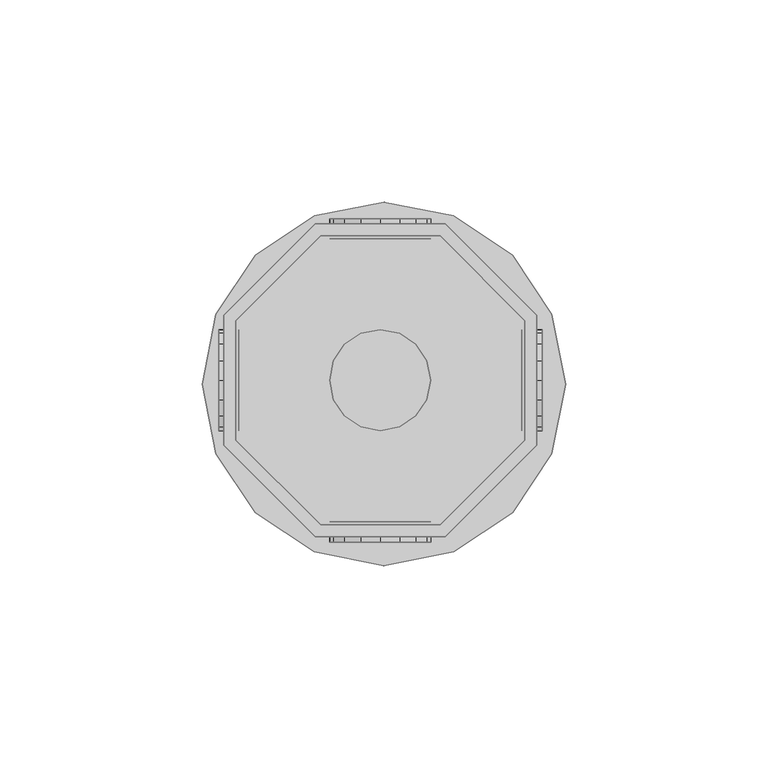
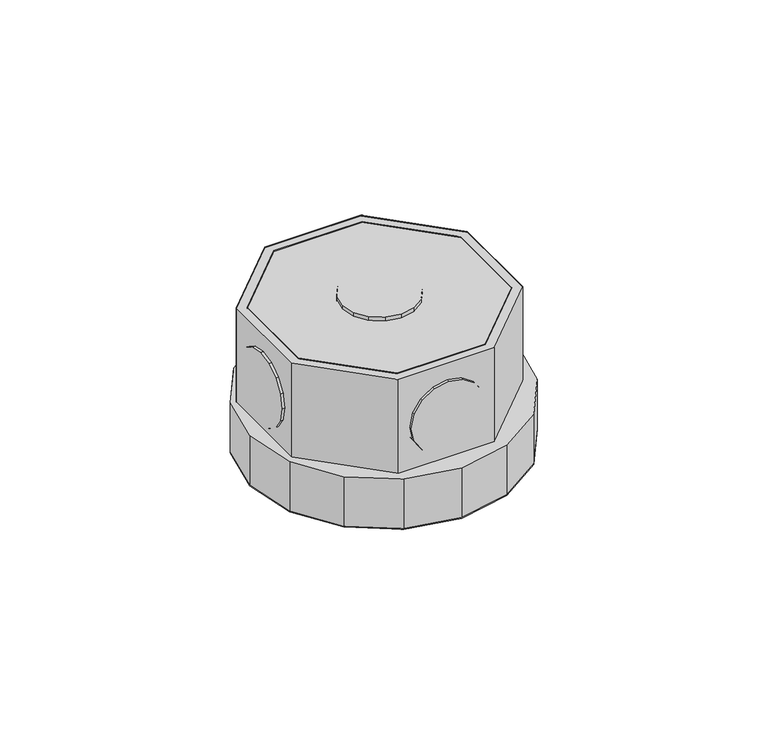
"""IFC4 building model written with IfcOpenShell, lengths in millimetres: light fixture geometry,  212706 :  212706."""

import ifcopenshell
import ifcopenshell.guid

model = None  # the IFC model being written
_history = None  # IfcOwnerHistory: only IFC2X3 demands one
_inside = {}  # id of a spatial element -> (the spatial element, [elements in it])
_under = {}  # id of a project, library or spatial element -> (it, [spatial elements below it])
_declared = {}  # id of a project -> (the project, [libraries it declares])
_typed = {}  # id of a type object -> (the type object, [elements of that type])
_made_of = {}  # id of a material, layer set ... -> (it, [elements and type objects made of it])


def new_model(schema):
    """Start an empty IFC model of exactly this schema.

    Asked for "IFC4X3", IfcOpenShell would pick the latest addendum, in which some entities
    have other attributes; the version numbers below select the first issue.
    IFC2X3 requires an IfcOwnerHistory on every rooted entity: one is made here for all.
    """
    global model, _history
    if schema == "IFC4X3":
        model = ifcopenshell.file(schema_version=(4, 3, 0, 0))
    else:
        model = ifcopenshell.file(schema=schema)
    _inside.clear()
    _under.clear()
    _declared.clear()
    _typed.clear()
    _made_of.clear()
    _history = None
    if model.schema == "IFC2X3":
        org = make("IfcOrganization", Name="unknown")
        user = make(
            "IfcPersonAndOrganization",
            ThePerson=make("IfcPerson", FamilyName="unknown"),
            TheOrganization=org,
        )
        app = make(
            "IfcApplication",
            ApplicationDeveloper=org,
            Version="unknown",
            ApplicationFullName="unknown",
            ApplicationIdentifier="unknown",
        )
        _history = make(
            "IfcOwnerHistory",
            OwningUser=user,
            OwningApplication=app,
            ChangeAction="ADDED",
            CreationDate=0,
        )
    return model


def make(cls, **values):
    """One entity of the class cls with the attributes given. An attribute that is None is left unset."""
    return model.create_entity(
        cls, **{name: value for name, value in values.items() if value is not None}
    )


def rooted(cls, **values):
    """An entity with a GlobalId (a new one), such as an element, a storey or a relation."""
    return make(cls, GlobalId=ifcopenshell.guid.new(), OwnerHistory=_history, **values)


def si_unit(unit_type, name, prefix=None):
    """IfcSIUnit, for example si_unit("LENGTHUNIT", "METRE", prefix="MILLI")."""
    return make("IfcSIUnit", UnitType=unit_type, Prefix=prefix, Name=name)


def assignment(units):
    """IfcUnitAssignment: the units of a project."""
    return None if units is None else make("IfcUnitAssignment", Units=units)


def point(xyz):
    """IfcCartesianPoint."""
    return None if xyz is None else make("IfcCartesianPoint", Coordinates=xyz)


def direction(xyz):
    """IfcDirection."""
    return None if xyz is None else make("IfcDirection", DirectionRatios=xyz)


def frame(location, z_axis=None, x_axis=None):
    """IfcAxis2Placement3D, a coordinate frame: its origin and axes. An axis left out is left unset."""
    return make(
        "IfcAxis2Placement3D",
        Location=point(location),
        Axis=direction(z_axis),
        RefDirection=direction(x_axis),
    )


def origin():
    """The frame at (0, 0, 0) with its axes left unset."""
    return frame((0.0, 0.0, 0.0))


def place(relative_to, where):
    """IfcLocalPlacement: puts the frame where relative to a parent placement (None: the world)."""
    return make(
        "IfcLocalPlacement", PlacementRelTo=relative_to, RelativePlacement=where
    )


def context(
    kind, dimensions, precision=None, world=None, true_north=None, identifier=None
):
    """IfcGeometricRepresentationContext, for example the 3D "Model" context."""
    return make(
        "IfcGeometricRepresentationContext",
        ContextIdentifier=identifier,
        ContextType=kind,
        CoordinateSpaceDimension=dimensions,
        Precision=precision,
        WorldCoordinateSystem=world,
        TrueNorth=true_north,
    )


def project(units=None, contexts=None):
    """IfcProject with its units and contexts."""
    return rooted(
        "IfcProject",
        Name="project",
        RepresentationContexts=contexts,
        UnitsInContext=assignment(units),
    )


def spatial(cls, under=None, at=None, **own):
    """A site, building, storey or space (cls), placed at a placement, below another one or the project."""
    s = rooted(cls, ObjectPlacement=at, **own)
    if under is not None:
        _under.setdefault(under.id(), (under, []))[1].append(s)
    return s


def point_list(points):
    """IfcCartesianPointList2D or 3D."""
    cls = (
        "IfcCartesianPointList2D" if len(points[0]) == 2 else "IfcCartesianPointList3D"
    )
    return make(cls, CoordList=points)


def triangles(points, corners, closed=None, point_numbers=None):
    """IfcTriangulatedFaceSet: each triangle names its three corners, points numbered from 1."""
    return make(
        "IfcTriangulatedFaceSet",
        Coordinates=point_list(points),
        Closed=closed,
        CoordIndex=corners,
        PnIndex=point_numbers,
    )


def shape(context_of_items, identifier, shape_type, items):
    """IfcShapeRepresentation: the items that make up one representation, for example the "Body"."""
    return make(
        "IfcShapeRepresentation",
        ContextOfItems=context_of_items,
        RepresentationIdentifier=identifier,
        RepresentationType=shape_type,
        Items=items,
    )


def source(mapping_origin, context_of_items, identifier, shape_type, items):
    """IfcRepresentationMap: a shape defined once, which mapped items show again and again."""
    return make(
        "IfcRepresentationMap",
        MappingOrigin=mapping_origin,
        MappedRepresentation=shape(context_of_items, identifier, shape_type, items),
    )


def transform(
    local_origin,
    x_axis=None,
    y_axis=None,
    z_axis=None,
    scale=None,
    scale2=None,
    scale3=None,
    uniform=True,
):
    """IfcCartesianTransformationOperator3D, or its non-uniform kind. x_axis, y_axis, z_axis: its Axis1, 2, 3."""
    if uniform:
        return make(
            "IfcCartesianTransformationOperator3D",
            Axis1=direction(x_axis),
            Axis2=direction(y_axis),
            LocalOrigin=point(local_origin),
            Scale=scale,
            Axis3=direction(z_axis),
        )
    return make(
        "IfcCartesianTransformationOperator3DnonUniform",
        Axis1=direction(x_axis),
        Axis2=direction(y_axis),
        LocalOrigin=point(local_origin),
        Scale=scale,
        Axis3=direction(z_axis),
        Scale2=scale2,
        Scale3=scale3,
    )


def mapped(mapping_source, mapping_target):
    """IfcMappedItem: shows the shape of a source again, moved by a transform."""
    return make(
        "IfcMappedItem", MappingSource=mapping_source, MappingTarget=mapping_target
    )


def made_of(thing, what):
    """Note that an element or type object is made of a material, layer set ...; save() writes the relation."""
    if what is not None:
        _made_of.setdefault(what.id(), (what, []))[1].append(thing)
    return thing


def element(
    cls,
    number,
    at=None,
    inside=None,
    cuts=None,
    type_object=None,
    material=None,
    context=None,
    identifier="Body",
    shape_type=None,
    held_by="IfcProductDefinitionShape",
    body=None,
    shapes=None,
    **own,
):
    """One element of the class cls, such as IfcWall. Its Tag is "e" and its number.

    at: its placement. inside: the storey or other place that contains it. cuts: it is an
    opening in that element (IfcRelVoidsElement). A single representation is given by context,
    identifier, shape_type and body (its items); several are given by shapes. held_by: the class
    of the entity that holds the representations. save() writes the other relations.
    """
    e = rooted(cls, Tag="e%d" % number, ObjectPlacement=at, **own)
    if body is not None:
        shapes = [shape(context, identifier, shape_type, body)]
    if shapes is not None:
        e.Representation = make(held_by, Representations=shapes)
    if inside is not None:
        _inside.setdefault(inside.id(), (inside, []))[1].append(e)
    if cuts is not None:
        rooted(
            "IfcRelVoidsElement", RelatingBuildingElement=cuts, RelatedOpeningElement=e
        )
    if type_object is not None:
        _typed.setdefault(type_object.id(), (type_object, []))[1].append(e)
    return made_of(e, material)


def aggregate(whole, parts):
    """IfcRelAggregates: a whole, such as a stair, and the parts it consists of."""
    return rooted("IfcRelAggregates", RelatingObject=whole, RelatedObjects=parts)


def save(model, path):
    """Write the relations noted so far, then the file.

    IfcRelAggregates (storeys below a building ...), IfcRelContainedInSpatialStructure (elements
    in a storey), IfcRelDefinesByType, IfcRelAssociatesMaterial and IfcRelDeclares: one each for
    every whole, place, type object, material and project.
    """
    for whole, parts in _under.values():
        aggregate(whole, parts)
    for where, things in _inside.values():
        rooted(
            "IfcRelContainedInSpatialStructure",
            RelatedElements=things,
            RelatingStructure=where,
        )
    for kind, things in _typed.values():
        rooted("IfcRelDefinesByType", RelatedObjects=things, RelatingType=kind)
    for what, things in _made_of.values():
        rooted("IfcRelAssociatesMaterial", RelatedObjects=things, RelatingMaterial=what)
    for by, libraries in _declared.values():
        rooted("IfcRelDeclares", RelatingContext=by, RelatedDefinitions=libraries)
    model.write(path)


def light_fixture_fd19b01a(model_context):
    return source(origin(), model_context, "Body", "Tessellation", [
        triangles([(27645.0009521, 9482.9200104, 2924.5999741), (27615.4004333, 9482.9200104, 2975.400071), (27615.4004333, 9482.9200104, 2924.5999741), (27645.0009521, 9482.9200104, 2975.400071), (27646.2008789, 9408.4199066, 2924.5999741), (27614.1005127, 9408.4199066, 2975.400071), (27614.1005127, 9408.4199066, 2924.5999741), (27646.2008789, 9408.4199066, 2975.400071), (27594.3993896, 9461.9201294, 2975.400071), (27594.3993896, 9461.9201294, 2924.5999741), (27668.8994934, 9431.1202652, 2924.5999741), (27668.8994934, 9431.1202652, 2975.400071), (27594.3993896, 9432.320192, 2975.400071), (27594.3993896, 9432.320192, 2924.5999741), (27668.8994934, 9463.22005, 2924.5999741), (27668.8994934, 9463.22005, 2975.400071), (27615.4004333, 9411.4197235, 2975.400071), (27615.4004333, 9411.4197235, 2924.5999741), (27646.2008789, 9485.9198273, 2924.5999741), (27646.2008789, 9485.9198273, 2975.400071), (27645.0009521, 9411.4197235, 2924.5999741), (27645.0009521, 9411.4197235, 2975.400071), (27614.1005127, 9485.9198273, 2975.400071), (27614.1005127, 9485.9198273, 2924.5999741), (27665.8996765, 9432.320192, 2924.5999741), (27665.8996765, 9432.320192, 2975.400071), (27591.3995728, 9463.22005, 2975.400071), (27591.3995728, 9463.22005, 2924.5999741), (27591.3995728, 9431.1202652, 2975.400071), (27665.8996765, 9461.9201294, 2975.400071), (27665.8996765, 9461.9201294, 2924.5999741), (27591.3995728, 9431.1202652, 2924.5999741), (27594.3993896, 9432.320192, 2972.3999634), (27615.4004333, 9411.4197235, 2972.3999634), (27645.0009521, 9411.4197235, 2972.3999634), (27665.8996765, 9432.320192, 2972.3999634), (27665.8996765, 9461.9201294, 2972.3999634), (27645.0009521, 9482.9200104, 2972.3999634), (27615.4004333, 9482.9200104, 2972.3999634), (27594.3993896, 9461.9201294, 2972.3999634), (27591.3995728, 9463.22005, 2942.4000504), (27614.1005127, 9485.9198273, 2942.4000504), (27646.2008789, 9485.9198273, 2942.4000504), (27668.8994934, 9463.22005, 2942.4000504), (27668.8994934, 9431.1202652, 2942.4000504), (27646.2008789, 9408.4199066, 2942.4000504), (27614.1005127, 9408.4199066, 2942.4000504), (27591.3995728, 9431.1202652, 2942.4000504), (27613.800531, 9404.7201324, 2942.4000504), (27589.4996887, 9429.019812, 2942.4000504), (27599.1990967, 9414.4201218, 2942.4000504), (27586.0998962, 9446.2199249, 2942.4000504), (27589.4996887, 9463.5200317, 2942.4000504), (27599.1990967, 9478.119722, 2942.4000504), (27613.800531, 9487.8197113, 2942.4000504), (27631.0994751, 9491.2200851, 2942.4000504), (27648.3007507, 9487.8197113, 2942.4000504), (27672.5992676, 9463.5200317, 2942.4000504), (27662.8998596, 9478.119722, 2942.4000504), (27631.0994751, 9401.2197647, 2942.4000504), (27648.3007507, 9404.7201324, 2942.4000504), (27662.8998596, 9414.4201218, 2942.4000504), (27672.5992676, 9429.019812, 2942.4000504), (27676.099054, 9446.2199249, 2942.4000504), (27589.4996887, 9429.019812, 2924.5999741), (27613.800531, 9404.7201324, 2924.5999741), (27599.1990967, 9414.4201218, 2924.5999741), (27586.0998962, 9446.2199249, 2924.5999741), (27589.4996887, 9463.5200317, 2924.5999741), (27599.1990967, 9478.119722, 2924.5999741), (27613.800531, 9487.8197113, 2924.5999741), (27631.0994751, 9491.2200851, 2924.5999741), (27648.3007507, 9487.8197113, 2924.5999741), (27672.5992676, 9463.5200317, 2924.5999741), (27662.8998596, 9478.119722, 2924.5999741), (27631.0994751, 9401.2197647, 2924.5999741), (27648.3007507, 9404.7201324, 2924.5999741), (27662.8998596, 9414.4201218, 2924.5999741), (27672.5992676, 9429.019812, 2924.5999741), (27676.099054, 9446.2199249, 2924.5999741), (27618.600238, 9487.119754, 2952.6000092), (27625.399823, 9487.119754, 2945.9001274), (27621.3000732, 9487.119754, 2948.5999626), (27617.700293, 9487.119754, 2957.4000069), (27630.19953, 9487.119754, 2944.8998978), (27618.600238, 9487.119754, 2962.2000046), (27634.9992371, 9487.119754, 2945.9001274), (27621.3000732, 9487.119754, 2966.2000511), (27638.9989929, 9487.119754, 2948.5999626), (27625.399823, 9487.119754, 2968.8998863), (27641.7011536, 9487.119754, 2952.6000092), (27630.19953, 9487.119754, 2969.900116), (27642.7010925, 9487.119754, 2957.4000069), (27634.9992371, 9487.119754, 2968.8998863), (27641.7011536, 9487.119754, 2962.2000046), (27638.9989929, 9487.119754, 2966.2000511), (27625.399823, 9482.1200592, 2945.9001274), (27618.600238, 9482.1200592, 2952.6000092), (27621.3000732, 9482.1200592, 2948.5999626), (27630.19953, 9482.1200592, 2944.8998978), (27617.700293, 9482.1200592, 2957.4000069), (27634.9992371, 9482.1200592, 2945.9001274), (27618.600238, 9482.1200592, 2962.2000046), (27638.9989929, 9482.1200592, 2948.5999626), (27621.3000732, 9482.1200592, 2966.2000511), (27625.399823, 9482.1200592, 2968.8998863), (27641.7011536, 9482.1200592, 2952.6000092), (27630.19953, 9482.1200592, 2969.900116), (27642.7010925, 9482.1200592, 2957.4000069), (27634.9992371, 9482.1200592, 2968.8998863), (27641.7011536, 9482.1200592, 2962.2000046), (27638.9989929, 9482.1200592, 2966.2000511), (27618.600238, 9412.1202621, 2952.6000092), (27625.399823, 9412.1202621, 2945.9001274), (27621.3000732, 9412.1202621, 2948.5999626), (27617.700293, 9412.1202621, 2957.4000069), (27630.19953, 9412.1202621, 2944.8998978), (27618.600238, 9412.1202621, 2962.2000046), (27634.9992371, 9412.1202621, 2945.9001274), (27621.3000732, 9412.1202621, 2966.2000511), (27638.9989929, 9412.1202621, 2948.5999626), (27625.399823, 9412.1202621, 2968.8998863), (27641.7011536, 9412.1202621, 2952.6000092), (27630.19953, 9412.1202621, 2969.900116), (27642.7010925, 9412.1202621, 2957.4000069), (27634.9992371, 9412.1202621, 2968.8998863), (27641.7011536, 9412.1202621, 2962.2000046), (27638.9989929, 9412.1202621, 2966.2000511), (27625.399823, 9407.119986, 2945.9001274), (27618.600238, 9407.119986, 2952.6000092), (27621.3000732, 9407.119986, 2948.5999626), (27630.19953, 9407.119986, 2944.8998978), (27617.700293, 9407.119986, 2957.4000069), (27634.9992371, 9407.119986, 2945.9001274), (27618.600238, 9407.119986, 2962.2000046), (27638.9989929, 9407.119986, 2948.5999626), (27621.3000732, 9407.119986, 2966.2000511), (27625.399823, 9407.119986, 2968.8998863), (27641.7011536, 9407.119986, 2952.6000092), (27630.19953, 9407.119986, 2969.900116), (27642.7010925, 9407.119986, 2957.4000069), (27634.9992371, 9407.119986, 2968.8998863), (27641.7011536, 9407.119986, 2962.2000046), (27638.9989929, 9407.119986, 2966.2000511), (27595.1993408, 9442.320163, 2945.9001274), (27595.1993408, 9435.6199905, 2952.6000092), (27595.1993408, 9438.3198257, 2948.5999626), (27595.1993408, 9447.11987, 2944.8998978), (27595.1993408, 9434.6200516, 2957.4000069), (27595.1993408, 9451.9201584, 2945.9001274), (27595.1993408, 9435.6199905, 2962.2000046), (27595.1993408, 9456.0199081, 2948.5999626), (27595.1993408, 9438.3198257, 2966.2000511), (27595.1993408, 9442.320163, 2968.8998863), (27595.1993408, 9458.7197433, 2952.6000092), (27595.1993408, 9447.11987, 2969.900116), (27595.1993408, 9459.6202698, 2957.4000069), (27595.1993408, 9451.9201584, 2968.8998863), (27595.1993408, 9458.7197433, 2962.2000046), (27595.1993408, 9456.0199081, 2966.2000511), (27590.199646, 9435.6199905, 2952.6000092), (27590.199646, 9442.320163, 2945.9001274), (27590.199646, 9438.3198257, 2948.5999626), (27590.199646, 9434.6200516, 2957.4000069), (27590.199646, 9447.11987, 2944.8998978), (27590.199646, 9435.6199905, 2962.2000046), (27590.199646, 9451.9201584, 2945.9001274), (27590.199646, 9438.3198257, 2966.2000511), (27590.199646, 9456.0199081, 2948.5999626), (27590.199646, 9442.320163, 2968.8998863), (27590.199646, 9458.7197433, 2952.6000092), (27590.199646, 9447.11987, 2969.900116), (27590.199646, 9459.6202698, 2957.4000069), (27590.199646, 9451.9201584, 2968.8998863), (27590.199646, 9458.7197433, 2962.2000046), (27590.199646, 9456.0199081, 2966.2000511), (27670.1994141, 9442.320163, 2945.9001274), (27670.1994141, 9435.6199905, 2952.6000092), (27670.1994141, 9438.3198257, 2948.5999626), (27670.1994141, 9447.11987, 2944.8998978), (27670.1994141, 9434.6200516, 2957.4000069), (27670.1994141, 9451.9201584, 2945.9001274), (27670.1994141, 9435.6199905, 2962.2000046), (27670.1994141, 9456.0199081, 2948.5999626), (27670.1994141, 9438.3198257, 2966.2000511), (27670.1994141, 9442.320163, 2968.8998863), (27670.1994141, 9458.7197433, 2952.6000092), (27670.1994141, 9447.11987, 2969.900116), (27670.1994141, 9459.6202698, 2957.4000069), (27670.1994141, 9451.9201584, 2968.8998863), (27670.1994141, 9458.7197433, 2962.2000046), (27670.1994141, 9456.0199081, 2966.2000511), (27665.1997192, 9435.6199905, 2952.6000092), (27665.1997192, 9442.320163, 2945.9001274), (27665.1997192, 9438.3198257, 2948.5999626), (27665.1997192, 9434.6200516, 2957.4000069), (27665.1997192, 9447.11987, 2944.8998978), (27665.1997192, 9435.6199905, 2962.2000046), (27665.1997192, 9451.9201584, 2945.9001274), (27665.1997192, 9438.3198257, 2966.2000511), (27665.1997192, 9456.0199081, 2948.5999626), (27665.1997192, 9442.320163, 2968.8998863), (27665.1997192, 9458.7197433, 2952.6000092), (27665.1997192, 9447.11987, 2969.900116), (27665.1997192, 9459.6202698, 2957.4000069), (27665.1997192, 9451.9201584, 2968.8998863), (27665.1997192, 9458.7197433, 2962.2000046), (27665.1997192, 9456.0199081, 2966.2000511), (27625.399823, 9435.6199905, 2976.9999733), (27618.600238, 9442.320163, 2976.9999733), (27621.3000732, 9438.3198257, 2976.9999733), (27617.700293, 9447.11987, 2976.9999733), (27630.19953, 9434.6200516, 2976.9999733), (27618.600238, 9451.9201584, 2976.9999733), (27634.9992371, 9435.6199905, 2976.9999733), (27621.3000732, 9456.0199081, 2976.9999733), (27638.9989929, 9438.3198257, 2976.9999733), (27625.399823, 9458.7197433, 2976.9999733), (27641.7011536, 9442.320163, 2976.9999733), (27630.19953, 9459.6202698, 2976.9999733), (27642.7010925, 9447.11987, 2976.9999733), (27634.9992371, 9458.7197433, 2976.9999733), (27641.7011536, 9451.9201584, 2976.9999733), (27638.9989929, 9456.0199081, 2976.9999733), (27618.600238, 9442.320163, 2971.9999878), (27625.399823, 9435.6199905, 2971.9999878), (27621.3000732, 9438.3198257, 2971.9999878), (27617.700293, 9447.11987, 2971.9999878), (27630.19953, 9434.6200516, 2971.9999878), (27618.600238, 9451.9201584, 2971.9999878), (27634.9992371, 9435.6199905, 2971.9999878), (27621.3000732, 9456.0199081, 2971.9999878), (27638.9989929, 9438.3198257, 2971.9999878), (27625.399823, 9458.7197433, 2971.9999878), (27641.7011536, 9442.320163, 2971.9999878), (27630.19953, 9459.6202698, 2971.9999878), (27642.7010925, 9447.11987, 2971.9999878), (27634.9992371, 9458.7197433, 2971.9999878), (27641.7011536, 9451.9201584, 2971.9999878), (27638.9989929, 9456.0199081, 2971.9999878)], [[1, 2, 3], [2, 1, 4], [5, 6, 7], [6, 5, 8], [3, 9, 10], [9, 3, 2], [11, 8, 5], [8, 11, 12], [10, 13, 14], [13, 10, 9], [15, 12, 11], [12, 15, 16], [14, 17, 18], [17, 14, 13], [19, 16, 15], [16, 19, 20], [17, 21, 18], [21, 17, 22], [23, 19, 24], [19, 23, 20], [22, 25, 21], [25, 22, 26], [27, 24, 28], [24, 27, 23], [6, 13, 29], [29, 13, 27], [27, 13, 9], [27, 9, 23], [23, 9, 2], [23, 2, 4], [23, 4, 20], [20, 4, 30], [8, 17, 6], [6, 17, 13], [17, 8, 22], [12, 22, 8], [22, 12, 26], [30, 26, 12], [16, 30, 12], [20, 30, 16], [30, 1, 31], [1, 30, 4], [6, 32, 7], [32, 6, 29], [32, 14, 7], [28, 14, 32], [14, 28, 10], [24, 10, 28], [10, 24, 3], [1, 3, 24], [19, 1, 24], [31, 1, 19], [7, 18, 5], [14, 18, 7], [5, 18, 21], [5, 21, 11], [11, 21, 25], [11, 25, 31], [11, 31, 15], [15, 31, 19], [26, 31, 25], [31, 26, 30], [29, 28, 32], [28, 29, 27], [17, 33, 34], [33, 17, 13], [35, 17, 34], [17, 35, 22], [36, 22, 35], [22, 36, 26], [37, 26, 36], [26, 37, 30], [38, 30, 37], [30, 38, 4], [2, 38, 39], [38, 2, 4], [17, 9, 13], [9, 17, 22], [9, 22, 2], [2, 22, 26], [2, 26, 4], [4, 26, 30], [13, 40, 33], [40, 13, 9], [40, 34, 33], [35, 34, 40], [35, 40, 39], [35, 39, 36], [36, 39, 38], [36, 38, 37], [9, 39, 40], [39, 9, 2], [24, 41, 28], [41, 24, 42], [19, 42, 24], [42, 19, 43], [44, 19, 15], [19, 44, 43], [45, 15, 11], [15, 45, 44], [46, 11, 5], [11, 46, 45], [47, 5, 7], [5, 47, 46], [32, 47, 7], [47, 32, 48], [28, 48, 32], [48, 28, 41], [49, 50, 51], [48, 50, 49], [50, 48, 52], [41, 52, 48], [52, 41, 53], [53, 41, 54], [42, 54, 41], [54, 42, 55], [55, 42, 43], [55, 43, 56], [56, 43, 57], [57, 43, 44], [57, 44, 58], [57, 58, 59], [47, 49, 60], [49, 47, 48], [47, 60, 46], [61, 46, 60], [46, 61, 62], [46, 62, 45], [45, 62, 63], [44, 45, 63], [44, 63, 64], [44, 64, 58], [65, 66, 67], [66, 65, 32], [68, 32, 65], [32, 68, 28], [28, 68, 69], [70, 28, 69], [28, 70, 24], [71, 24, 70], [19, 24, 71], [19, 71, 72], [73, 19, 72], [19, 73, 15], [74, 15, 73], [74, 73, 75], [76, 66, 7], [32, 7, 66], [5, 76, 7], [76, 5, 77], [77, 5, 78], [11, 78, 5], [78, 11, 79], [79, 11, 15], [79, 15, 80], [80, 15, 74], [57, 75, 73], [75, 57, 59], [56, 73, 72], [73, 56, 57], [55, 72, 71], [72, 55, 56], [54, 71, 70], [71, 54, 55], [53, 70, 69], [70, 53, 54], [52, 69, 68], [69, 52, 53], [50, 68, 65], [68, 50, 52], [51, 65, 67], [65, 51, 50], [66, 51, 67], [51, 66, 49], [76, 49, 66], [49, 76, 60], [77, 60, 76], [60, 77, 61], [78, 61, 77], [61, 78, 62], [79, 62, 78], [62, 79, 63], [80, 63, 79], [63, 80, 64], [75, 58, 74], [58, 75, 59], [74, 64, 80], [64, 74, 58], [81, 82, 83], [82, 81, 84], [85, 82, 84], [85, 84, 86], [87, 85, 86], [87, 86, 88], [87, 88, 89], [89, 88, 90], [89, 90, 91], [91, 90, 92], [91, 92, 93], [93, 92, 94], [93, 94, 95], [95, 94, 96], [97, 98, 99], [98, 97, 100], [101, 98, 100], [101, 100, 102], [103, 101, 102], [103, 102, 104], [103, 104, 105], [105, 104, 106], [106, 104, 107], [106, 107, 108], [108, 107, 109], [108, 109, 110], [110, 109, 111], [110, 111, 112], [87, 104, 102], [104, 87, 89], [85, 102, 100], [102, 85, 87], [82, 100, 97], [100, 82, 85], [83, 97, 99], [97, 83, 82], [98, 83, 99], [83, 98, 81], [101, 81, 98], [81, 101, 84], [103, 84, 101], [84, 103, 86], [105, 86, 103], [86, 105, 88], [106, 88, 105], [88, 106, 90], [108, 90, 106], [90, 108, 92], [110, 92, 108], [92, 110, 94], [112, 94, 110], [94, 112, 96], [95, 112, 111], [112, 95, 96], [93, 111, 109], [111, 93, 95], [89, 107, 104], [107, 89, 91], [91, 109, 107], [109, 91, 93], [113, 114, 115], [114, 113, 116], [117, 114, 116], [117, 116, 118], [119, 117, 118], [119, 118, 120], [119, 120, 121], [121, 120, 122], [121, 122, 123], [123, 122, 124], [123, 124, 125], [125, 124, 126], [125, 126, 127], [127, 126, 128], [129, 130, 131], [130, 129, 132], [133, 130, 132], [133, 132, 134], [135, 133, 134], [135, 134, 136], [135, 136, 137], [137, 136, 138], [138, 136, 139], [138, 139, 140], [140, 139, 141], [140, 141, 142], [142, 141, 143], [142, 143, 144], [119, 136, 134], [136, 119, 121], [117, 134, 132], [134, 117, 119], [114, 132, 129], [132, 114, 117], [115, 129, 131], [129, 115, 114], [130, 115, 131], [115, 130, 113], [133, 113, 130], [113, 133, 116], [135, 116, 133], [116, 135, 118], [137, 118, 135], [118, 137, 120], [138, 120, 137], [120, 138, 122], [140, 122, 138], [122, 140, 124], [142, 124, 140], [124, 142, 126], [144, 126, 142], [126, 144, 128], [127, 144, 143], [144, 127, 128], [125, 143, 141], [143, 125, 127], [121, 139, 136], [139, 121, 123], [123, 141, 139], [141, 123, 125], [145, 146, 147], [146, 145, 148], [149, 146, 148], [149, 148, 150], [151, 149, 150], [151, 150, 152], [151, 152, 153], [153, 152, 154], [154, 152, 155], [154, 155, 156], [156, 155, 157], [156, 157, 158], [158, 157, 159], [158, 159, 160], [161, 162, 163], [162, 161, 164], [165, 162, 164], [165, 164, 166], [167, 165, 166], [167, 166, 168], [169, 167, 168], [169, 168, 170], [169, 170, 171], [171, 170, 172], [171, 172, 173], [173, 172, 174], [173, 174, 175], [175, 174, 176], [158, 176, 174], [176, 158, 160], [156, 174, 172], [174, 156, 158], [154, 172, 170], [172, 154, 156], [153, 170, 168], [170, 153, 154], [151, 168, 166], [168, 151, 153], [149, 166, 164], [166, 149, 151], [146, 164, 161], [164, 146, 149], [147, 161, 163], [161, 147, 146], [162, 147, 163], [147, 162, 145], [165, 145, 162], [145, 165, 148], [167, 148, 165], [148, 167, 150], [169, 150, 167], [150, 169, 152], [171, 152, 169], [152, 171, 155], [173, 155, 171], [155, 173, 157], [176, 159, 175], [159, 176, 160], [175, 157, 173], [157, 175, 159], [177, 178, 179], [178, 177, 180], [181, 178, 180], [181, 180, 182], [183, 181, 182], [183, 182, 184], [183, 184, 185], [185, 184, 186], [186, 184, 187], [186, 187, 188], [188, 187, 189], [188, 189, 190], [190, 189, 191], [190, 191, 192], [193, 194, 195], [194, 193, 196], [197, 194, 196], [197, 196, 198], [199, 197, 198], [199, 198, 200], [201, 199, 200], [201, 200, 202], [201, 202, 203], [203, 202, 204], [203, 204, 205], [205, 204, 206], [205, 206, 207], [207, 206, 208], [190, 208, 206], [208, 190, 192], [188, 206, 204], [206, 188, 190], [186, 204, 202], [204, 186, 188], [185, 202, 200], [202, 185, 186], [183, 200, 198], [200, 183, 185], [181, 198, 196], [198, 181, 183], [178, 196, 193], [196, 178, 181], [179, 193, 195], [193, 179, 178], [194, 179, 195], [179, 194, 177], [197, 177, 194], [177, 197, 180], [199, 180, 197], [180, 199, 182], [201, 182, 199], [182, 201, 184], [203, 184, 201], [184, 203, 187], [205, 187, 203], [187, 205, 189], [208, 191, 207], [191, 208, 192], [207, 189, 205], [189, 207, 191], [209, 210, 211], [212, 210, 209], [212, 209, 213], [214, 212, 213], [214, 213, 215], [216, 214, 215], [216, 215, 217], [216, 217, 218], [218, 217, 219], [218, 219, 220], [220, 219, 221], [220, 221, 222], [222, 221, 223], [222, 223, 224], [225, 226, 227], [226, 225, 228], [229, 226, 228], [229, 228, 230], [231, 229, 230], [231, 230, 232], [231, 232, 233], [233, 232, 234], [233, 234, 235], [235, 234, 236], [235, 236, 237], [237, 236, 238], [237, 238, 239], [239, 238, 240], [222, 240, 238], [240, 222, 224], [220, 238, 236], [238, 220, 222], [218, 236, 234], [236, 218, 220], [216, 234, 232], [234, 216, 218], [214, 232, 230], [232, 214, 216], [212, 230, 228], [230, 212, 214], [210, 228, 225], [228, 210, 212], [211, 225, 227], [225, 211, 210], [226, 211, 227], [211, 226, 209], [229, 209, 226], [209, 229, 213], [231, 213, 229], [213, 231, 215], [233, 215, 231], [215, 233, 217], [235, 217, 233], [217, 235, 219], [237, 219, 235], [219, 237, 221], [240, 223, 239], [223, 240, 224], [239, 221, 237], [221, 239, 223]], closed=False),
    ])


if __name__ == "__main__":
    model = new_model("IFC4")
    model_context = context("Model", 3, world=origin())
    ifc_project = project(units=[si_unit("LENGTHUNIT", "METRE", prefix="MILLI")], contexts=[model_context])
    site = spatial("IfcSite", under=ifc_project)
    building = spatial("IfcBuilding", under=site)
    placement = place(None, origin())
    light_fixture_shape = light_fixture_fd19b01a(model_context)
    element("IfcLightFixture", 1, ObjectType=" 212706 :  212706", at=placement, inside=building, context=model_context, shape_type="MappedRepresentation", body=[
        mapped(light_fixture_shape, transform((0.0, 0.0, 0.0), x_axis=(1.0, 0.0, 0.0), y_axis=(0.0, 1.0, 0.0), z_axis=(0.0, 0.0, 1.0))),
    ])
    save(model, "model.ifc")
